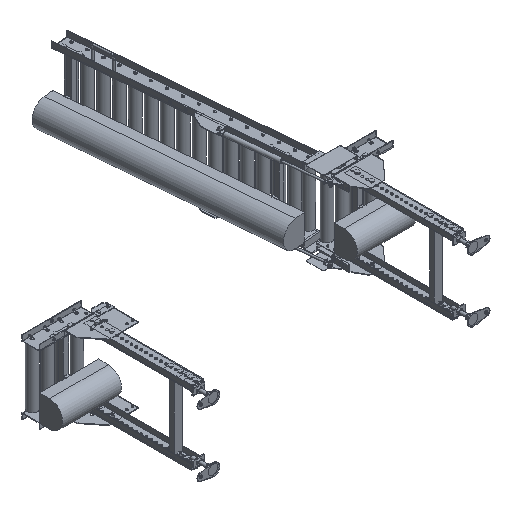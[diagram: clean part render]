
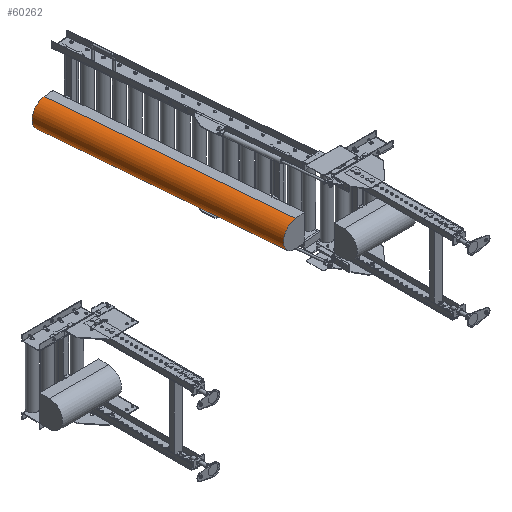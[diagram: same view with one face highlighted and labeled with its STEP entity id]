
A CAD part, isometric view. The second image highlights one B-rep face of the part: STEP entity #60262.
In plain terms, the highlighted cylindrical face has radius 66.89 mm (diameter 133.78 mm), a partial arc.
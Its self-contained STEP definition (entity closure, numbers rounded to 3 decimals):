
#514 = EDGE_CURVE ( 'NONE', #24117, #67128, #30699, .T. ) ;
#4205 = DIRECTION ( 'NONE',  ( -0.087, 0.996, 0. ) ) ;
#4843 = CIRCLE ( 'NONE', #34431, 66.89 ) ;
#8250 = CYLINDRICAL_SURFACE ( 'NONE', #17021, 66.89 ) ;
#13590 = VECTOR ( 'NONE', #63773, 1000. ) ;
#16539 = VERTEX_POINT ( 'NONE', #56137 ) ;
#16681 = EDGE_LOOP ( 'NONE', ( #27096, #63162, #41815, #44337 ) ) ;
#17021 = AXIS2_PLACEMENT_3D ( 'NONE', #63230, #27723, #44915 ) ;
#18651 = EDGE_CURVE ( 'NONE', #16539, #20128, #4843, .T. ) ;
#20128 = VERTEX_POINT ( 'NONE', #46986 ) ;
#21996 = CARTESIAN_POINT ( 'NONE',  ( -63.444, -158.438, -159.5 ) ) ;
#24117 = VERTEX_POINT ( 'NONE', #59443 ) ;
#25451 = DIRECTION ( 'NONE',  ( -0.087, 0.996, 0. ) ) ;
#27096 = ORIENTED_EDGE ( 'NONE', *, *, #61576, .F. ) ;
#27723 = DIRECTION ( 'NONE',  ( -0.087, 0.996, 0. ) ) ;
#30699 = CIRCLE ( 'NONE', #63886, 66.89 ) ;
#34431 = AXIS2_PLACEMENT_3D ( 'NONE', #69785, #4205, #70303 ) ;
#37056 = EDGE_CURVE ( 'NONE', #20128, #67128, #42305, .T. ) ;
#41815 = ORIENTED_EDGE ( 'NONE', *, *, #37056, .T. ) ;
#42305 = LINE ( 'NONE', #54437, #67536 ) ;
#42460 = DIRECTION ( 'NONE',  ( -0.087, 0.996, 0. ) ) ;
#44337 = ORIENTED_EDGE ( 'NONE', *, *, #514, .F. ) ;
#44915 = DIRECTION ( 'NONE',  ( 0., 0., 1. ) ) ;
#46165 = CARTESIAN_POINT ( 'NONE',  ( -181.863, 1196.047, -25.72 ) ) ;
#46986 = CARTESIAN_POINT ( 'NONE',  ( -78.917, 18.539, -25.72 ) ) ;
#48432 = DIRECTION ( 'NONE',  ( 0., 0., -1. ) ) ;
#54437 = CARTESIAN_POINT ( 'NONE',  ( -63.444, -158.438, -25.72 ) ) ;
#56137 = CARTESIAN_POINT ( 'NONE',  ( -78.917, 18.539, -159.5 ) ) ;
#59443 = CARTESIAN_POINT ( 'NONE',  ( -181.863, 1196.047, -159.5 ) ) ;
#60262 = ADVANCED_FACE ( 'NONE', ( #69056 ), #8250, .T. ) ;
#61576 = EDGE_CURVE ( 'NONE', #16539, #24117, #72467, .T. ) ;
#63162 = ORIENTED_EDGE ( 'NONE', *, *, #18651, .T. ) ;
#63230 = CARTESIAN_POINT ( 'NONE',  ( -63.444, -158.438, -92.61 ) ) ;
#63773 = DIRECTION ( 'NONE',  ( -0.087, 0.996, 0. ) ) ;
#63886 = AXIS2_PLACEMENT_3D ( 'NONE', #72231, #42460, #48432 ) ;
#67128 = VERTEX_POINT ( 'NONE', #46165 ) ;
#67536 = VECTOR ( 'NONE', #25451, 1000. ) ;
#69056 = FACE_OUTER_BOUND ( 'NONE', #16681, .T. ) ;
#69785 = CARTESIAN_POINT ( 'NONE',  ( -78.917, 18.539, -92.61 ) ) ;
#70303 = DIRECTION ( 'NONE',  ( 0., 0., -1. ) ) ;
#72231 = CARTESIAN_POINT ( 'NONE',  ( -181.863, 1196.047, -92.61 ) ) ;
#72467 = LINE ( 'NONE', #21996, #13590 ) ;
